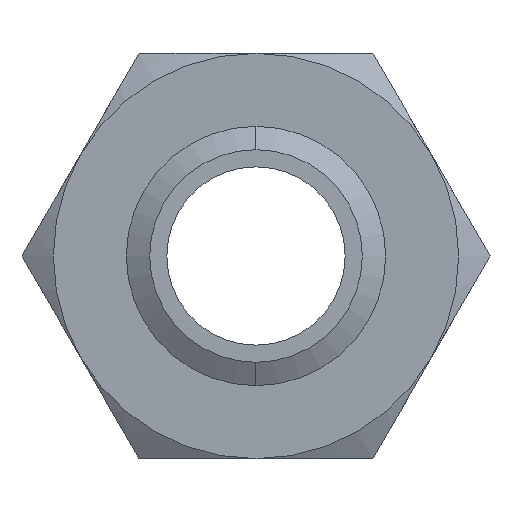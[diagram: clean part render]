
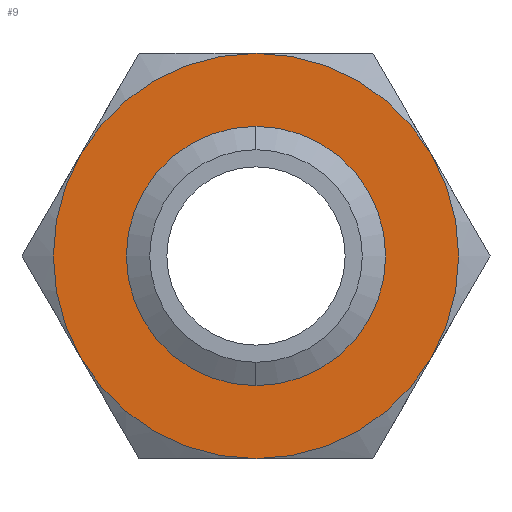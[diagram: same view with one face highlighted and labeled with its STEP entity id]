
A CAD part, front view. The second image highlights one B-rep face of the part: STEP entity #9.
In plain terms, the highlighted planar face has unit normal (0, -1, 0).
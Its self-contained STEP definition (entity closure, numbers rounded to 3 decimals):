
#1 = VERTEX_POINT ( 'NONE', #21 ) ;
#2 = ORIENTED_EDGE ( 'NONE', *, *, #24, .F. ) ;
#4 = EDGE_LOOP ( 'NONE', ( #26, #25, #2, #22, #2060, #2059 ) ) ;
#6 = VERTEX_POINT ( 'NONE', #188 ) ;
#8 = VERTEX_POINT ( 'NONE', #184 ) ;
#9 = ADVANCED_FACE ( 'NONE', ( #180, #179 ), #178, .F. ) ;
#21 = CARTESIAN_POINT ( 'NONE',  ( -32.476, 0., -18.75 ) ) ;
#22 = ORIENTED_EDGE ( 'NONE', *, *, #2067, .F. ) ;
#24 = EDGE_CURVE ( 'NONE', #1, #29, #211, .T. ) ;
#25 = ORIENTED_EDGE ( 'NONE', *, *, #27, .F. ) ;
#26 = ORIENTED_EDGE ( 'NONE', *, *, #30, .F. ) ;
#27 = EDGE_CURVE ( 'NONE', #29, #8, #206, .T. ) ;
#29 = VERTEX_POINT ( 'NONE', #200 ) ;
#30 = EDGE_CURVE ( 'NONE', #8, #6, #199, .T. ) ;
#153 = EDGE_CURVE ( 'NONE', #154, #155, #547, .T. ) ;
#154 = VERTEX_POINT ( 'NONE', #542 ) ;
#155 = VERTEX_POINT ( 'NONE', #541 ) ;
#173 = DIRECTION ( 'NONE',  ( 0., 0., 1. ) ) ;
#174 = DIRECTION ( 'NONE',  ( 0., 1., 0. ) ) ;
#175 = CARTESIAN_POINT ( 'NONE',  ( 21.651, 0., -37.5 ) ) ;
#176 = AXIS2_PLACEMENT_3D ( 'NONE', #175, #174, #173 ) ;
#178 = PLANE ( 'NONE',  #176 ) ;
#179 = FACE_BOUND ( 'NONE', #2036, .T. ) ;
#180 = FACE_OUTER_BOUND ( 'NONE', #4, .T. ) ;
#184 = CARTESIAN_POINT ( 'NONE',  ( 0., 0., 37.5 ) ) ;
#188 = CARTESIAN_POINT ( 'NONE',  ( 32.476, 0., 18.75 ) ) ;
#195 = DIRECTION ( 'NONE',  ( 0., 0., 1. ) ) ;
#196 = DIRECTION ( 'NONE',  ( 0., 1., 0. ) ) ;
#197 = CARTESIAN_POINT ( 'NONE',  ( 0., 0., 0. ) ) ;
#198 = AXIS2_PLACEMENT_3D ( 'NONE', #197, #196, #195 ) ;
#199 = CIRCLE ( 'NONE', #198, 37.5 ) ;
#200 = CARTESIAN_POINT ( 'NONE',  ( -32.476, 0., 18.75 ) ) ;
#202 = DIRECTION ( 'NONE',  ( 0., 0., 1. ) ) ;
#203 = DIRECTION ( 'NONE',  ( 0., 1., 0. ) ) ;
#204 = CARTESIAN_POINT ( 'NONE',  ( 0., 0., 0. ) ) ;
#205 = AXIS2_PLACEMENT_3D ( 'NONE', #204, #203, #202 ) ;
#206 = CIRCLE ( 'NONE', #205, 37.5 ) ;
#207 = DIRECTION ( 'NONE',  ( 0., 0., 1. ) ) ;
#208 = DIRECTION ( 'NONE',  ( 0., 1., 0. ) ) ;
#209 = CARTESIAN_POINT ( 'NONE',  ( 0., 0., 0. ) ) ;
#210 = AXIS2_PLACEMENT_3D ( 'NONE', #209, #208, #207 ) ;
#211 = CIRCLE ( 'NONE', #210, 37.5 ) ;
#541 = CARTESIAN_POINT ( 'NONE',  ( 0., 0., 19.67 ) ) ;
#542 = CARTESIAN_POINT ( 'NONE',  ( 0., 0., -19.67 ) ) ;
#543 = DIRECTION ( 'NONE',  ( 0., 0., -1. ) ) ;
#544 = DIRECTION ( 'NONE',  ( 0., -1., 0. ) ) ;
#545 = CARTESIAN_POINT ( 'NONE',  ( 0., 0., 0. ) ) ;
#546 = AXIS2_PLACEMENT_3D ( 'NONE', #545, #544, #543 ) ;
#547 = CIRCLE ( 'NONE', #546, 19.67 ) ;
#1366 = DIRECTION ( 'NONE',  ( 0., 0., -1. ) ) ;
#1367 = DIRECTION ( 'NONE',  ( 0., -1., 0. ) ) ;
#1368 = CARTESIAN_POINT ( 'NONE',  ( 0., 0., 0. ) ) ;
#1369 = AXIS2_PLACEMENT_3D ( 'NONE', #1368, #1367, #1366 ) ;
#1370 = CIRCLE ( 'NONE', #1369, 19.67 ) ;
#1401 = DIRECTION ( 'NONE',  ( 0., 0., 1. ) ) ;
#1402 = DIRECTION ( 'NONE',  ( 0., 1., 0. ) ) ;
#1403 = CARTESIAN_POINT ( 'NONE',  ( 0., 0., 0. ) ) ;
#1404 = AXIS2_PLACEMENT_3D ( 'NONE', #1403, #1402, #1401 ) ;
#1405 = CIRCLE ( 'NONE', #1404, 37.5 ) ;
#1411 = DIRECTION ( 'NONE',  ( 0., 0., 1. ) ) ;
#1412 = DIRECTION ( 'NONE',  ( 0., 1., 0. ) ) ;
#1413 = CARTESIAN_POINT ( 'NONE',  ( 0., 0., 0. ) ) ;
#1414 = AXIS2_PLACEMENT_3D ( 'NONE', #1413, #1412, #1411 ) ;
#1415 = CIRCLE ( 'NONE', #1414, 37.5 ) ;
#1416 = CARTESIAN_POINT ( 'NONE',  ( 32.476, 0., -18.75 ) ) ;
#1417 = CARTESIAN_POINT ( 'NONE',  ( 0., 0., -37.5 ) ) ;
#1418 = DIRECTION ( 'NONE',  ( 0., 0., 1. ) ) ;
#1419 = DIRECTION ( 'NONE',  ( 0., 1., 0. ) ) ;
#1420 = CARTESIAN_POINT ( 'NONE',  ( 0., 0., 0. ) ) ;
#1421 = AXIS2_PLACEMENT_3D ( 'NONE', #1420, #1419, #1418 ) ;
#1422 = CIRCLE ( 'NONE', #1421, 37.5 ) ;
#2029 = ORIENTED_EDGE ( 'NONE', *, *, #153, .F. ) ;
#2031 = ORIENTED_EDGE ( 'NONE', *, *, #2053, .F. ) ;
#2036 = EDGE_LOOP ( 'NONE', ( #2029, #2031 ) ) ;
#2053 = EDGE_CURVE ( 'NONE', #155, #154, #1370, .T. ) ;
#2055 = EDGE_CURVE ( 'NONE', #6, #2058, #1422, .T. ) ;
#2056 = VERTEX_POINT ( 'NONE', #1417 ) ;
#2057 = EDGE_CURVE ( 'NONE', #2058, #2056, #1415, .T. ) ;
#2058 = VERTEX_POINT ( 'NONE', #1416 ) ;
#2059 = ORIENTED_EDGE ( 'NONE', *, *, #2055, .F. ) ;
#2060 = ORIENTED_EDGE ( 'NONE', *, *, #2057, .F. ) ;
#2067 = EDGE_CURVE ( 'NONE', #2056, #1, #1405, .T. ) ;
